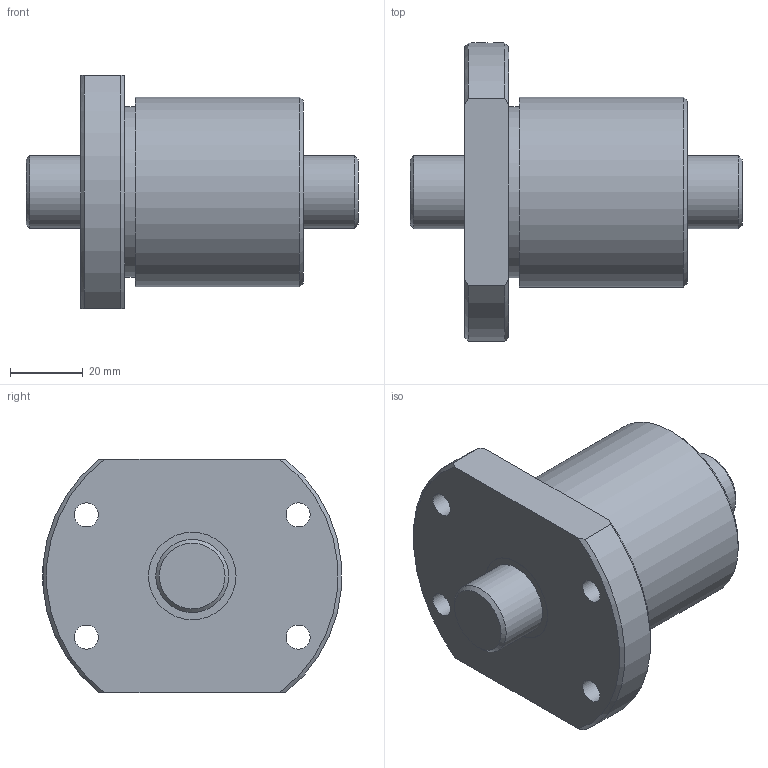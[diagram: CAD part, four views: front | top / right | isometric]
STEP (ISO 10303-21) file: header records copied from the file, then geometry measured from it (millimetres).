
FILE_DESCRIPTION(/* description */ ('STEP AP203'),/* implementation_level */ '2;1');
FILE_NAME(/* name */ 'BTK2010V-2.6ZZ+91LC7T_000',/* time_stamp */ '2025-01-16T07:57:15+01:00',/* author */ ('License CC BY-ND 4.0'),/* organization */ ('CADENAS'),/* preprocessor_version */ 'ST-DEVELOPER v19.3',/* originating_system */ 'PARTsolutions',/* authorisation */ ' ');
FILE_SCHEMA (('CONFIG_CONTROL_DESIGN'));
Length unit declared in the file: millimetre
Products named in the file (3): BTK2010V-2.6ZZ+91LC7T_000; BTK 2010V-2.600 Shaft; BTK 2010V-2.6ZZ Nut
Assembly tree (2 placements, depth 2):
  BTK2010V-2.6ZZ+91LC7T_000
    BTK 2010V-2.600 Shaft
    BTK 2010V-2.6ZZ Nut
Bounding box: 91 x 81.86 x 64 mm (x, y, z)
Volume: 165537.3 mm3; surface area: 31409 mm2
Topology: 2 solids, 2 shells, 31 faces, 66 edges, 43 vertices
Faces by surface type: cylinder 13, plane 10, cone 8
Full cylindrical faces by diameter (mm): 4.917 x1, 6.6 x4, 20 x2, 24 x2, 46.8 x1, 52 x1
Entity records: 887 total; most frequent: CARTESIAN_POINT 170, DIRECTION 140, ORIENTED_EDGE 100, AXIS2_PLACEMENT_3D 66, EDGE_LOOP 62, FACE_BOUND 62, EDGE_CURVE 50, VERTEX_POINT 42
